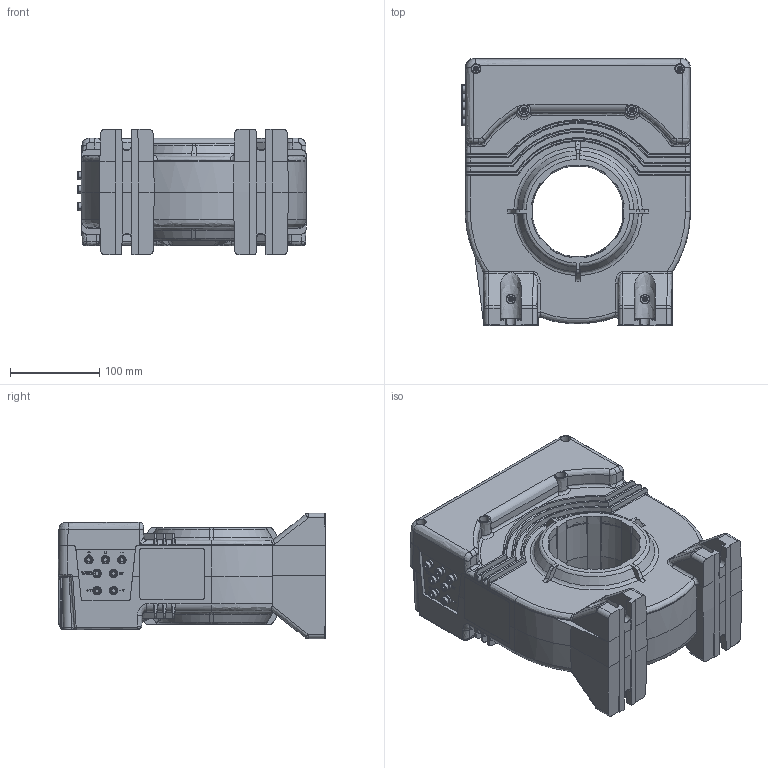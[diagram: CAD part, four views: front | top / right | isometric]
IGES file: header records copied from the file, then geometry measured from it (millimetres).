
Start section: Elysium IGES Interface
Global section: file name: C:\Documents and Settings\pmo\Desktop\ITC 4000\ITC_4000_S_black_box.igs; native system: CoCreate Modeling 17.00A  17-Jun-2010; preprocessor: CoCreate IGES_3D V2.2; author: Unknown; organization: Unknown; date: 20120207.163656; units: millimetre
Bounding box: 256.02 x 299.31 x 140 mm (x, y, z)
Volume: 1449812.8 mm3; surface area: 728680.7 mm2
Topology: 22 solids, 23 shells, 6251 faces, 17511 edges, 11366 vertices
Faces by surface type: bspline 6251
